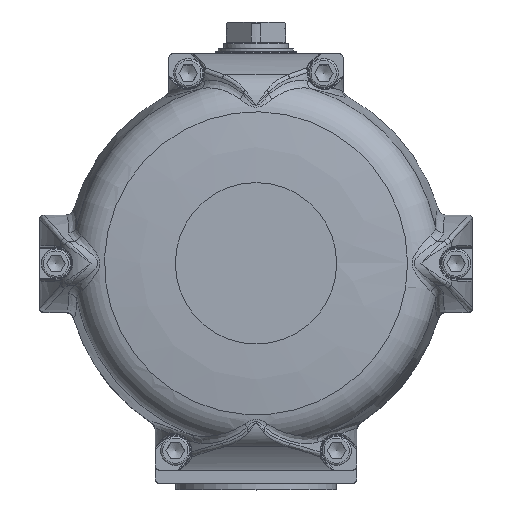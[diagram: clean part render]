
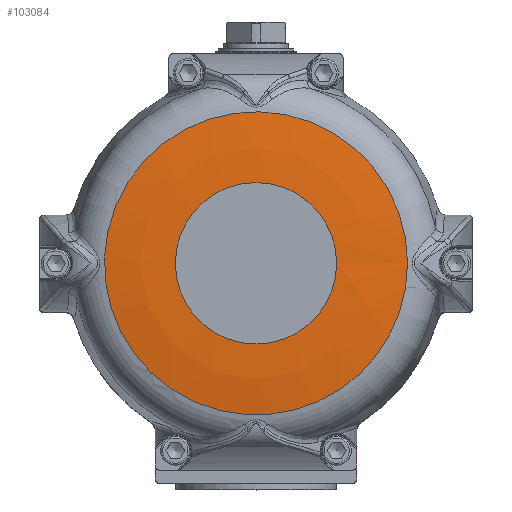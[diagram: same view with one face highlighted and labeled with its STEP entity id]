
A CAD part, top view. The second image highlights one B-rep face of the part: STEP entity #103084.
In plain terms, the highlighted free-form (B-spline) face has degree [2, 2] with [3, 9] control points.
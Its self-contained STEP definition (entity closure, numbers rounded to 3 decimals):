
#97713=CARTESIAN_POINT('',(93.903,0.,211.77));
#97714=VERTEX_POINT('',#97713);
#97715=CARTESIAN_POINT('',(0.,0.,211.77));
#97716=DIRECTION('',(0.0,0.0,-1.0));
#97717=DIRECTION('',(1.0,0.0,0.0));
#97718=AXIS2_PLACEMENT_3D('',#97715,#97716,#97717);
#97719=CIRCLE('',#97718,93.903);
#97720=EDGE_CURVE('',#97714,#97714,#97719,.T.);
#103031=CARTESIAN_POINT('',(50.,0.,215.));
#103032=VERTEX_POINT('',#103031);
#103033=CARTESIAN_POINT('',(0.,0.,215.));
#103034=DIRECTION('',(0.0,0.0,-1.0));
#103035=DIRECTION('',(1.0,0.0,0.0));
#103036=AXIS2_PLACEMENT_3D('',#103033,#103034,#103035);
#103037=CIRCLE('',#103036,50.0);
#103038=EDGE_CURVE('',#103032,#103032,#103037,.T.);
#103043=CARTESIAN_POINT('',(0.,6.097,211.77));
#103044=CARTESIAN_POINT('',(0.,50.,218.265));
#103045=CARTESIAN_POINT('',(0.,93.903,211.77));
#103046=CARTESIAN_POINT('',(-6.097,6.097,211.77));
#103047=CARTESIAN_POINT('',(-50.,50.,218.265));
#103048=CARTESIAN_POINT('',(-93.903,93.903,211.77));
#103049=CARTESIAN_POINT('',(-6.097,0.,211.77));
#103050=CARTESIAN_POINT('',(-50.,0.,218.265));
#103051=CARTESIAN_POINT('',(-93.903,0.,211.77));
#103052=CARTESIAN_POINT('',(-6.097,-6.097,211.77));
#103053=CARTESIAN_POINT('',(-50.,-50.,218.265));
#103054=CARTESIAN_POINT('',(-93.903,-93.903,211.77));
#103055=CARTESIAN_POINT('',(0.,-6.097,211.77));
#103056=CARTESIAN_POINT('',(0.,-50.,218.265));
#103057=CARTESIAN_POINT('',(0.,-93.903,211.77));
#103058=CARTESIAN_POINT('',(6.097,-6.097,211.77));
#103059=CARTESIAN_POINT('',(50.,-50.,218.265));
#103060=CARTESIAN_POINT('',(93.903,-93.903,211.77));
#103061=CARTESIAN_POINT('',(6.097,0.,211.77));
#103062=CARTESIAN_POINT('',(50.,0.,218.265));
#103063=CARTESIAN_POINT('',(93.903,0.,211.77));
#103064=CARTESIAN_POINT('',(6.097,6.097,211.77));
#103065=CARTESIAN_POINT('',(50.,50.,218.265));
#103066=CARTESIAN_POINT('',(93.903,93.903,211.77));
#103067=CARTESIAN_POINT('',(0.,6.097,211.77));
#103068=CARTESIAN_POINT('',(0.,50.,218.265));
#103069=CARTESIAN_POINT('',(0.,93.903,211.77));
#103077=(BOUNDED_SURFACE()B_SPLINE_SURFACE(2,2,((#103043,#103046,#103049,#103052,#103055,#103058,#103061,#103064,#103067),(#103044,#103047,#103050,#103053,#103056,#103059,#103062,#103065,#103068),(#103045,#103048,#103051,#103054,#103057,#103060,#103063,#103066,#103069)),.UNSPECIFIED.,.F.,.T.,.U.)B_SPLINE_SURFACE_WITH_KNOTS((3,3),(3,2,2,2,3),(-1.718,-1.424),(0.0,1.571,3.142,4.712,6.283),.UNSPECIFIED.)GEOMETRIC_REPRESENTATION_ITEM()RATIONAL_B_SPLINE_SURFACE(((1.0,0.707,1.0,0.707,1.0,0.707,1.0,0.707,1.0),(0.989,0.699,0.989,0.699,0.989,0.699,0.989,0.699,0.989),(1.0,0.707,1.0,0.707,1.0,0.707,1.0,0.707,1.0)))REPRESENTATION_ITEM('')SURFACE());
#103078=ORIENTED_EDGE('',*,*,#97720,.F.);
#103079=EDGE_LOOP('',(#103078));
#103080=FACE_OUTER_BOUND('',#103079,.T.);
#103081=ORIENTED_EDGE('',*,*,#103038,.T.);
#103082=EDGE_LOOP('',(#103081));
#103083=FACE_BOUND('',#103082,.T.);
#103084=ADVANCED_FACE('',(#103080,#103083),#103077,.T.);
